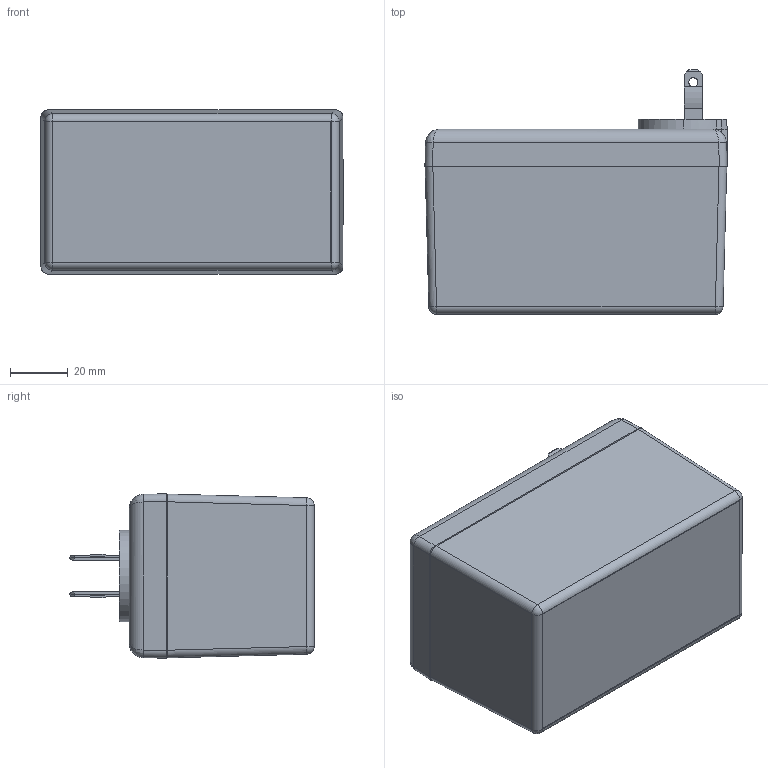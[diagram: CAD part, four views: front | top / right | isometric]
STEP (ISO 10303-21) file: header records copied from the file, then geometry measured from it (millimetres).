
FILE_DESCRIPTION (( 'STEP AP214' ), '1' );
FILE_NAME ('PM2425R02XNT.STEP', '2010-07-15T14:15:24', ( '' ), ( '' ), 'SwSTEP 2.0', 'SolidWorks 2010', '' );
FILE_SCHEMA (( 'AUTOMOTIVE_DESIGN' ));
Length unit declared in the file: inch
Products named in the file (8): TS-2420B AND PM2420_TS-2420BP-R; B2405 ASS''Y_B24052XNT; MPB2405_MPB24052NT; BLADES; WELD DISC-PS-BK; SCREWS-HL1-BR; B2405-PCB; PM2425R02XNT
Assembly tree (11 placements, depth 3):
  PM2425R02XNT
    B2405-PCB
    SCREWS-HL1-BR  x4
    TS-2420B AND PM2420_TS-2420BP-R
    B2405 ASS''Y_B24052XNT
      WELD DISC-PS-BK
      BLADES  x2
      MPB2405_MPB24052NT
Bounding box: 104.6 x 84.55 x 56.95 mm (x, y, z)
Volume: 88094.7 mm3; surface area: 82109.2 mm2
Topology: 10 solids, 10 shells, 874 faces, 2439 edges, 1592 vertices
Faces by surface type: cylinder 486, plane 267, cone 77, bspline 28, sphere 12, torus 4
Entity records: 18052 total; most frequent: CARTESIAN_POINT 6071, ORIENTED_EDGE 2592, DIRECTION 2304, EDGE_CURVE 1296, VERTEX_POINT 842, AXIS2_PLACEMENT_3D 814, VECTOR 676, LINE 676
